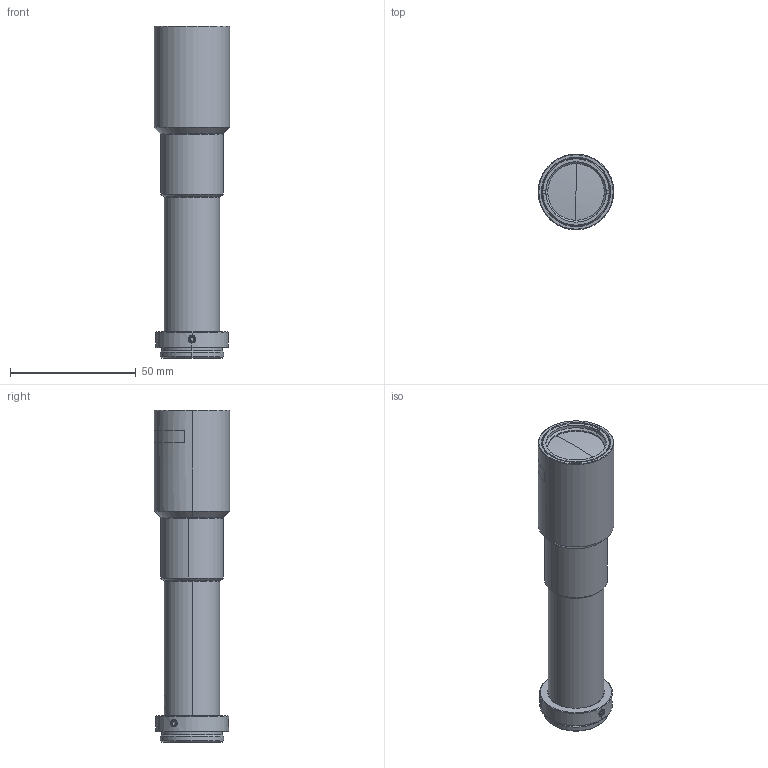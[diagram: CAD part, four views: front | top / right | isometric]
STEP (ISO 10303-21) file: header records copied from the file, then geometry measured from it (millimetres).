
FILE_DESCRIPTION(('LS-FFL-0038'),'2;1');
FILE_NAME('LS-FFL-0038.stp','2026-10-15T21:50:06',('LumaSpec Vision'),('LumaSpec Vision'),'LumaSpec Vision','LumaSpec Vision','');
FILE_SCHEMA(('AUTOMOTIVE_DESIGN { 1 0 10303 214 1 1 1 1 }'));
Length unit declared in the file: millimetre
Products named in the file (11): LS-FFL-0038
Assembly tree (10 placements, depth 2):
  LS-FFL-0038
    (unnamed)
    (unnamed)
    (unnamed)
    (unnamed)
    (unnamed)
    (unnamed)
    (unnamed)
    (unnamed)
    (unnamed)
    (unnamed)
Bounding box: 30 x 30.05 x 132 mm (x, y, z)
Volume: 36002.3 mm3; surface area: 25354.1 mm2
Topology: 10 solids, 10 shells, 284 faces, 619 edges, 380 vertices
Faces by surface type: cone 107, cylinder 90, plane 75, bspline 8, sphere 4
Entity records: 21167 total; most frequent: CARTESIAN_POINT 8385, DIRECTION 2444, ORIENTED_EDGE 1238, PCURVE 1238, DEFINITIONAL_REPRESENTATION 1238, LINE 1216, VECTOR 1216, EDGE_CURVE 619
